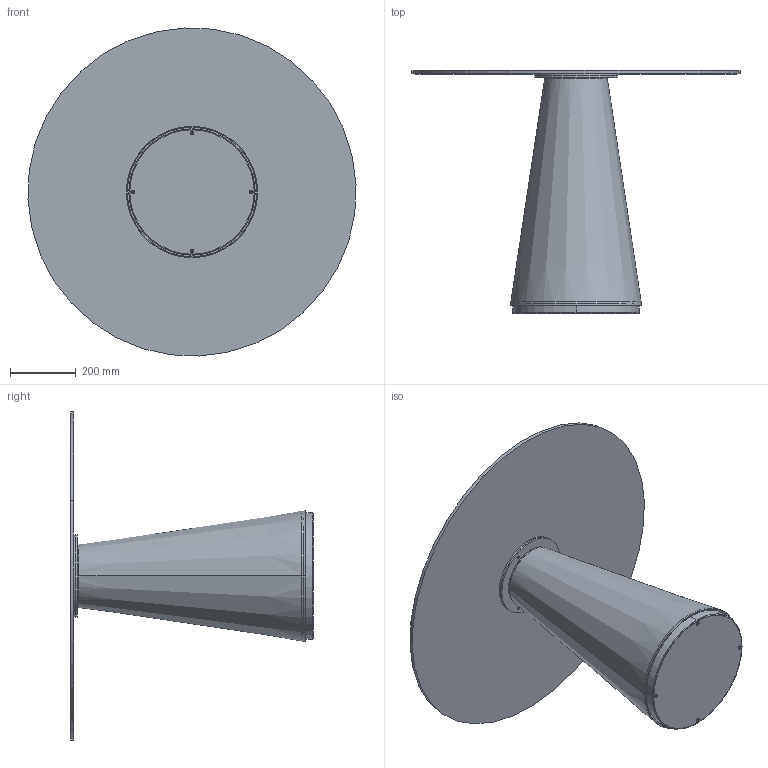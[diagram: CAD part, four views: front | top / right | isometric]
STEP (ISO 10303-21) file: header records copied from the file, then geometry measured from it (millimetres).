
FILE_DESCRIPTION (( 'STEP AP203' ), '1' );
FILE_NAME ('TE30G.STEP', '2024-08-08T07:50:35', ( '' ), ( '' ), 'SwSTEP 2.0', 'SolidWorks 2022', '' );
FILE_SCHEMA (( 'CONFIG_CONTROL_DESIGN' ));
Length unit declared in the file: millimetre
Products named in the file (10): C1XCRMXX-00-piani Rotondi Cristallo_C03 D.100cm; P0000003-00-STAFFA DI FISSAGGIO DIAMETRO 250_P0000003-250mm normale; Assieme BASE TED; TED000000BAS_01-00-TED PIASTRA; TED000000TCONO-00-TED CONO; TE30G; CXXCRXX-00-Piani Rotondi in Cristallo CON PIASTRA_C03P PIANO CRISTALLO D.100cm; M6xXXmm_HEX_M6x40mm HEX; M6xXXmm_HEX_M6x20mm HEX; TED000000PIA-00-TED PIASTRA SOPRA
Assembly tree (15 placements, depth 3):
  TE30G
    CXXCRXX-00-Piani Rotondi in Cristallo CON PIASTRA_C03P PIANO CRISTALLO D.100cm
      C1XCRMXX-00-piani Rotondi Cristallo_C03 D.100cm
      P0000003-00-STAFFA DI FISSAGGIO DIAMETRO 250_P0000003-250mm normale
    Assieme BASE TED
      TED000000BAS_01-00-TED PIASTRA
      TED000000PIA-00-TED PIASTRA SOPRA
      TED000000TCONO-00-TED CONO
      M6xXXmm_HEX_M6x20mm HEX  x4
      M6xXXmm_HEX_M6x40mm HEX  x4
Bounding box: 999.01 x 739.5 x 999.01 mm (x, y, z)
Volume: 9532942.3 mm3; surface area: 3510388.8 mm2
Topology: 15 solids, 15 shells, 370 faces, 781 edges, 434 vertices
Faces by surface type: plane 177, cylinder 113, cone 60, torus 20
Entity records: 5987 total; most frequent: DIRECTION 955, CARTESIAN_POINT 779, ORIENTED_EDGE 738, AXIS2_PLACEMENT_3D 400, EDGE_CURVE 369, VERTEX_POINT 224, EDGE_LOOP 221, CIRCLE 214
